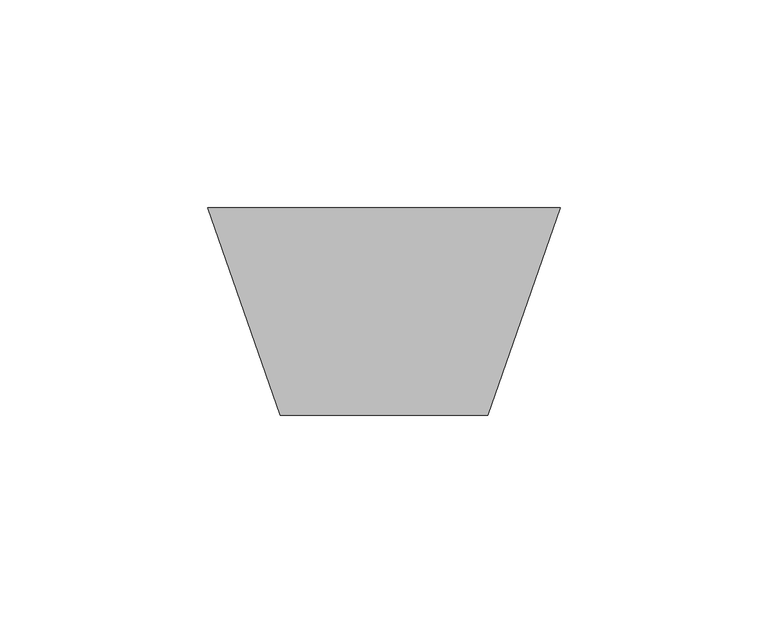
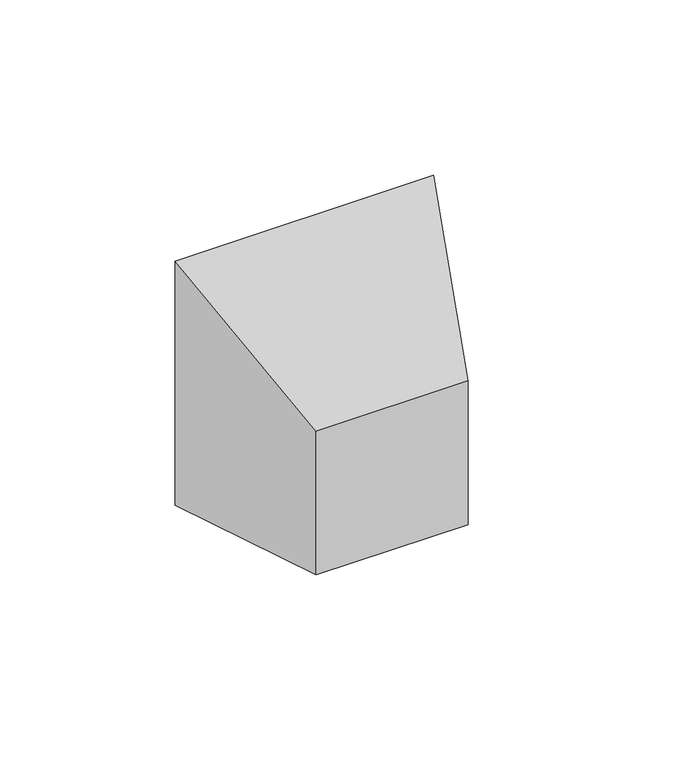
"""IFC4 building model written with IfcOpenShell, lengths in millimetres: duct fitting geometry, Переходник на напольный кабель-канал : Переходник на напольный кабель-канал, крышка 85мм."""

from ifc_helpers import new_model, si_unit, origin, place, context, project, spatial, faceted_brep, source, transform, mapped, element, save


def duct_fitting_e7094824(model_context):
    return source(origin(), model_context, "Body", "Brep", [
        faceted_brep([(25.0, -25.0, 50.0), (-25.0, -25.0, 50.0), (-25.0, -25.0, 0.0), (25.0, -25.0, 0.0), (42.5, 25.0, 85.0), (42.5, 25.0, 0.0), (-42.5, 25.0, 0.0), (-42.5, 25.0, 85.0)], [[[0, 1, 2, 3]], [[4, 5, 6, 7]], [[4, 7, 1, 0]], [[7, 6, 2, 1]], [[6, 5, 3, 2]], [[5, 4, 0, 3]]]),
    ])


if __name__ == "__main__":
    model = new_model("IFC4")
    model_context = context("Model", 3, world=origin())
    ifc_project = project(units=[si_unit("LENGTHUNIT", "METRE", prefix="MILLI")], contexts=[model_context])
    site = spatial("IfcSite", under=ifc_project)
    building = spatial("IfcBuilding", under=site)
    placement = place(None, origin())
    duct_fitting_shape = duct_fitting_e7094824(model_context)
    element("IfcDuctFitting", 1, ObjectType="Переходник на напольный кабель-канал : Переходник на напольный кабель-канал, крышка 85мм", at=placement, inside=building, context=model_context, shape_type="MappedRepresentation", body=[
        mapped(duct_fitting_shape, transform((0.0, 0.0, 0.0), x_axis=(1.0, 0.0, 0.0), y_axis=(0.0, 1.0, 0.0), z_axis=(0.0, 0.0, 1.0))),
    ])
    save(model, "model.ifc")
